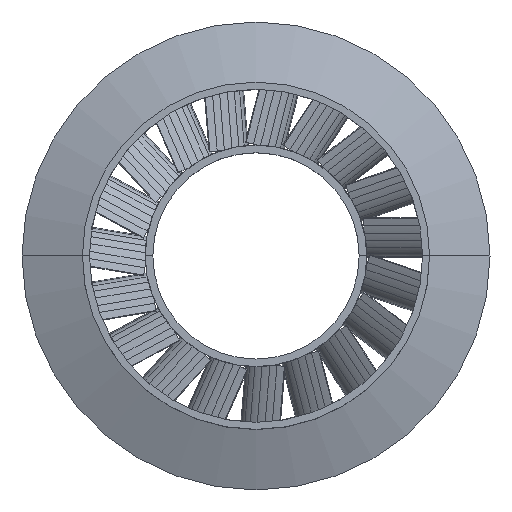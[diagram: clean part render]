
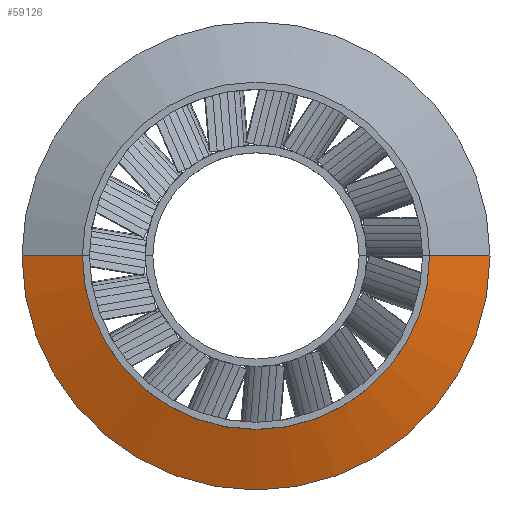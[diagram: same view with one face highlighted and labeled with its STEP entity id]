
A CAD part, top view. The second image highlights one B-rep face of the part: STEP entity #59126.
In plain terms, the highlighted conical face has half-angle 69.444 degrees and reference radius 0 mm.
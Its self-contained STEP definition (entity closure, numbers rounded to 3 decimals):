
#13=CARTESIAN_POINT('',(46.5,0.0,150.5));
#14=CARTESIAN_POINT('',(-46.5,0.0,150.5));
#15=CARTESIAN_POINT('',(34.5,0.0,155.0));
#16=CARTESIAN_POINT('',(-34.5,0.0,155.0));
#16162=CARTESIAN_POINT('',(0.0,0.0,150.5));
#16163=DIRECTION('',(0.0,0.0,1.0));
#16164=DIRECTION('',(1.0,0.0,0.0));
#16165=AXIS2_PLACEMENT_3D('',#16162,#16163,#16164);
#16166=CIRCLE('',#16165,46.5);
#16167=TRIMMED_CURVE('',#16166,(#14),(#13),.T.,.CARTESIAN.);
#16168=DIRECTION('',(0.936,0.0,0.351));
#16169=VECTOR('',#16168,1.0);
#16170=LINE('',#14,#16169);
#16177=DIRECTION('',(-0.936,0.0,0.351));
#16178=VECTOR('',#16177,1.0);
#16179=LINE('',#13,#16178);
#16180=CARTESIAN_POINT('',(0.0,0.0,155.0));
#16181=DIRECTION('',(0.0,0.0,1.0));
#16182=DIRECTION('',(1.0,0.0,0.0));
#16183=AXIS2_PLACEMENT_3D('',#16180,#16181,#16182);
#16184=CIRCLE('',#16183,34.5);
#16185=TRIMMED_CURVE('',#16184,(#16),(#15),.T.,.CARTESIAN.);
#30970=CARTESIAN_POINT('',(0.0,0.0,167.938));
#30971=DIRECTION('',(0.0,0.0,-1.0));
#30972=DIRECTION('',(0.0,1.0,0.0));
#30973=AXIS2_PLACEMENT_3D('',#30970,#30971,#30972);
#30974=CONICAL_SURFACE('',#30973,0.0,1.212);
#37249=VERTEX_POINT('',#13);
#37250=VERTEX_POINT('',#14);
#37251=VERTEX_POINT('',#15);
#37252=VERTEX_POINT('',#16);
#44439=EDGE_CURVE('',#37250,#37249,#16167,.T.);
#44440=EDGE_CURVE('',#37250,#37252,#16170,.T.);
#44442=EDGE_CURVE('',#37249,#37251,#16179,.T.);
#44443=EDGE_CURVE('',#37252,#37251,#16185,.T.);
#49821=ORIENTED_EDGE('',*,*,#44439,.T.);
#49822=ORIENTED_EDGE('',*,*,#44442,.T.);
#49823=ORIENTED_EDGE('',*,*,#44443,.F.);
#49824=ORIENTED_EDGE('',*,*,#44440,.F.);
#58275=EDGE_LOOP('',(#49821,#49822,#49823,#49824));
#58709=FACE_OUTER_BOUND('',#58275,.T.);
#59126=ADVANCED_FACE('',(#58709),#30974,.T.);
